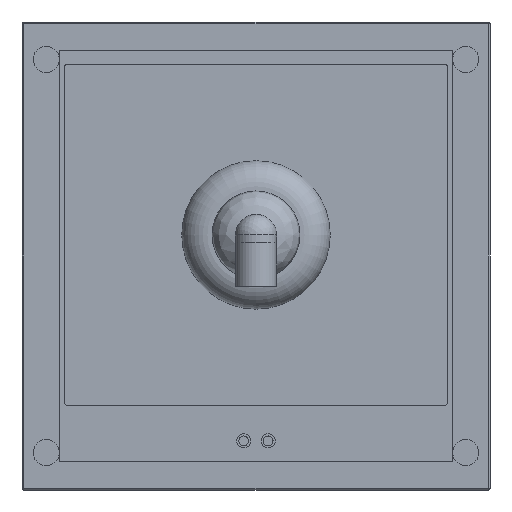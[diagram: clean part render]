
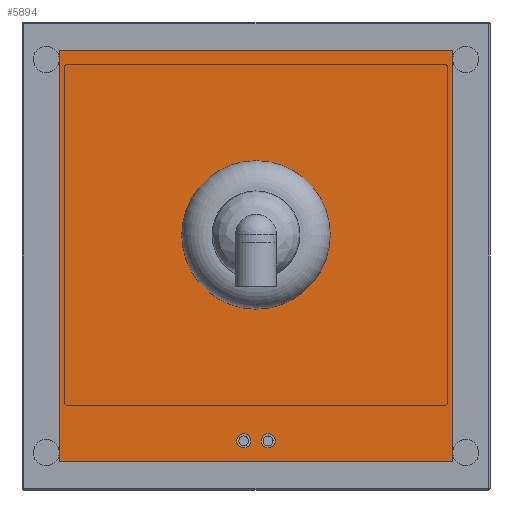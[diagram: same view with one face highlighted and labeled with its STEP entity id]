
A CAD part, front view. The second image highlights one B-rep face of the part: STEP entity #5894.
In plain terms, the highlighted planar face has unit normal (0, -1, 0).
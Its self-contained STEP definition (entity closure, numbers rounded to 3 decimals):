
#371=FACE_BOUND('',#1227,.T.);
#372=FACE_BOUND('',#1228,.T.);
#373=FACE_BOUND('',#1229,.T.);
#491=PLANE('',#6430);
#813=FACE_OUTER_BOUND('',#1226,.T.);
#1226=EDGE_LOOP('',(#5030,#5031,#5032,#5033));
#1227=EDGE_LOOP('',(#5034));
#1228=EDGE_LOOP('',(#5035));
#1229=EDGE_LOOP('',(#5036,#5037));
#1629=LINE('',#13058,#2054);
#1630=LINE('',#13060,#2055);
#1631=LINE('',#13062,#2056);
#1632=LINE('',#13063,#2057);
#2054=VECTOR('',#7626,10.);
#2055=VECTOR('',#7627,10.);
#2056=VECTOR('',#7628,10.);
#2057=VECTOR('',#7629,10.);
#2280=CIRCLE('',#6164,7.5);
#2282=CIRCLE('',#6168,7.5);
#2371=CIRCLE('',#6428,78.884);
#2372=CIRCLE('',#6429,78.884);
#2501=VERTEX_POINT('',#8457);
#2503=VERTEX_POINT('',#8464);
#2857=VERTEX_POINT('',#13050);
#2858=VERTEX_POINT('',#13051);
#2859=VERTEX_POINT('',#13056);
#2860=VERTEX_POINT('',#13057);
#2861=VERTEX_POINT('',#13059);
#2862=VERTEX_POINT('',#13061);
#3099=EDGE_CURVE('',#2501,#2501,#2280,.T.);
#3102=EDGE_CURVE('',#2503,#2503,#2282,.T.);
#3616=EDGE_CURVE('',#2857,#2858,#2371,.T.);
#3617=EDGE_CURVE('',#2858,#2857,#2372,.T.);
#3619=EDGE_CURVE('',#2859,#2860,#1629,.T.);
#3620=EDGE_CURVE('',#2861,#2859,#1630,.T.);
#3621=EDGE_CURVE('',#2862,#2861,#1631,.T.);
#3622=EDGE_CURVE('',#2860,#2862,#1632,.T.);
#5030=ORIENTED_EDGE('',*,*,#3619,.F.);
#5031=ORIENTED_EDGE('',*,*,#3620,.F.);
#5032=ORIENTED_EDGE('',*,*,#3621,.F.);
#5033=ORIENTED_EDGE('',*,*,#3622,.F.);
#5034=ORIENTED_EDGE('',*,*,#3099,.T.);
#5035=ORIENTED_EDGE('',*,*,#3102,.T.);
#5036=ORIENTED_EDGE('',*,*,#3616,.T.);
#5037=ORIENTED_EDGE('',*,*,#3617,.T.);
#5894=ADVANCED_FACE('',(#813,#371,#372,#373),#491,.F.);
#6164=AXIS2_PLACEMENT_3D('',#8459,#6869,#6870);
#6168=AXIS2_PLACEMENT_3D('',#8466,#6878,#6879);
#6428=AXIS2_PLACEMENT_3D('',#13052,#7619,#7620);
#6429=AXIS2_PLACEMENT_3D('',#13053,#7621,#7622);
#6430=AXIS2_PLACEMENT_3D('',#13055,#7624,#7625);
#6869=DIRECTION('center_axis',(0.,1.,0.));
#6870=DIRECTION('ref_axis',(-1.,0.,0.));
#6878=DIRECTION('center_axis',(0.,1.,0.));
#6879=DIRECTION('ref_axis',(-1.,0.,0.));
#7619=DIRECTION('center_axis',(0.,1.,0.));
#7620=DIRECTION('ref_axis',(-1.,0.,0.));
#7621=DIRECTION('center_axis',(0.,1.,0.));
#7622=DIRECTION('ref_axis',(-1.,0.,0.));
#7624=DIRECTION('center_axis',(0.,1.,0.));
#7625=DIRECTION('ref_axis',(0.,0.,1.));
#7626=DIRECTION('',(1.,0.,0.));
#7627=DIRECTION('',(0.,0.,1.));
#7628=DIRECTION('',(-1.,0.,0.));
#7629=DIRECTION('',(0.,0.,-1.));
#8457=CARTESIAN_POINT('',(-5.695,98.,-197.5));
#8459=CARTESIAN_POINT('Origin',(-13.195,98.,-197.5));
#8464=CARTESIAN_POINT('',(20.433,98.,-197.5));
#8466=CARTESIAN_POINT('Origin',(12.933,98.,-197.5));
#13050=CARTESIAN_POINT('',(-78.884,98.,22.5));
#13051=CARTESIAN_POINT('',(78.884,98.,22.5));
#13052=CARTESIAN_POINT('Origin',(0.,98.,22.5));
#13053=CARTESIAN_POINT('Origin',(0.,98.,22.5));
#13055=CARTESIAN_POINT('Origin',(0.,98.,0.));
#13056=CARTESIAN_POINT('',(-210.,98.,220.));
#13057=CARTESIAN_POINT('',(210.,98.,220.));
#13058=CARTESIAN_POINT('',(-210.,98.,220.));
#13059=CARTESIAN_POINT('',(-210.,98.,-220.));
#13060=CARTESIAN_POINT('',(-210.,98.,-220.));
#13061=CARTESIAN_POINT('',(210.,98.,-220.));
#13062=CARTESIAN_POINT('',(210.,98.,-220.));
#13063=CARTESIAN_POINT('',(210.,98.,220.));
